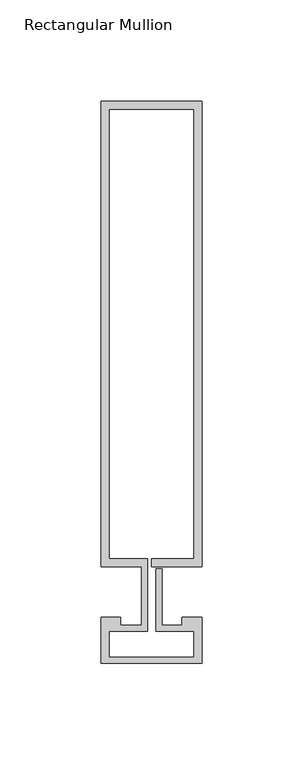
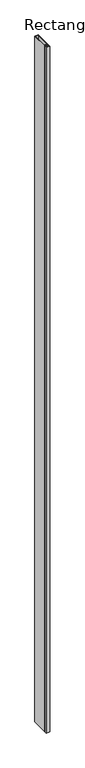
"""IFC4 building model written with IfcOpenShell, lengths in millimetres: member geometry, Rectangular Mullion : Reynaers_CW-50_Mullion-Transom_Vertical_230.5mm_Facecap-02C."""

from ifc_helpers import new_model, si_unit, frame, origin, place, context, project, spatial, polyline, outline, extrude, source, transform, mapped, element, save


def rectangular_mullion_6ef7ea1f(model_context):
    return source(origin(), model_context, "Body", "SweptSolid", [
        extrude(outline(polyline([(-24.8004059, 243.0), (25.1995941, 243.0), (25.1995941, 12.5), (0.0, 12.5), (0.0, 16.5), (21.1995941, 16.5), (21.1995941, 239.0), (-20.8004059, 239.0), (-20.8004059, 16.5), (-1.9004059, 16.5), (-1.9004059, -19.5), (-20.994845, -19.5), (-20.994845, -32.2191338), (21.1995941, -32.2191338), (21.1995941, -19.5), (2.2995941, -19.5), (2.2995941, 11.5), (5.2995941, 11.5), (5.2995941, -16.5), (15.2996495, -16.5), (15.2996495, -12.5), (25.1995941, -12.5), (25.1995941, -35.3), (-24.994845, -35.3), (-24.994845, -12.5), (-15.2996495, -12.5), (-15.2996495, -16.5), (-4.9004059, -16.5), (-4.9004059, 12.5), (-24.8004059, 12.5), (-24.8004059, 243.0)])), frame((0.0, 0.0, -10400.0), z_axis=(0.0, 0.0, 1.0), x_axis=(1.0, 0.0, 0.0)), (0.0, 0.0, 1.0), 10400.0),
    ])


if __name__ == "__main__":
    model = new_model("IFC4")
    model_context = context("Model", 3, world=origin())
    ifc_project = project(units=[si_unit("LENGTHUNIT", "METRE", prefix="MILLI")], contexts=[model_context])
    site = spatial("IfcSite", under=ifc_project)
    building = spatial("IfcBuilding", under=site)
    placement = place(None, origin())
    rectangular_mullion_shape = rectangular_mullion_6ef7ea1f(model_context)
    element("IfcMember", 1, ObjectType="Rectangular Mullion : Reynaers_CW-50_Mullion-Transom_Vertical_230.5mm_Facecap-02C", at=placement, inside=building, context=model_context, shape_type="MappedRepresentation", body=[
        mapped(rectangular_mullion_shape, transform((0.0, 0.0, 0.0), x_axis=(1.0, 0.0, 0.0), y_axis=(0.0, 1.0, 0.0), z_axis=(0.0, 0.0, 1.0))),
    ])
    save(model, "model.ifc")
